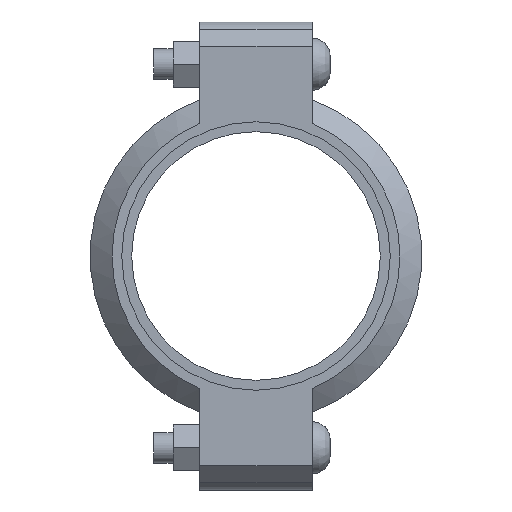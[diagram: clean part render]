
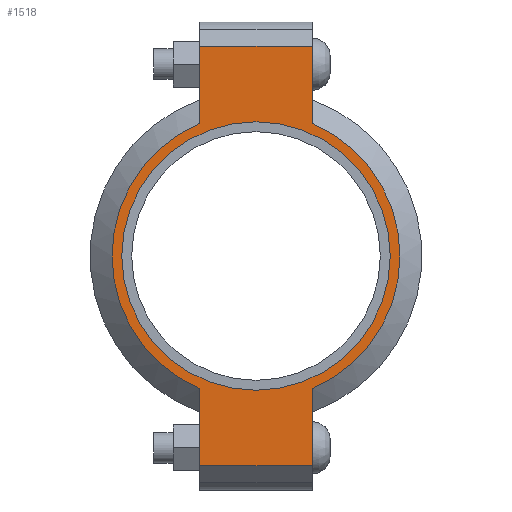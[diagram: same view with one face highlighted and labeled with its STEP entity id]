
A CAD part, left-side view. The second image highlights one B-rep face of the part: STEP entity #1518.
In plain terms, the highlighted planar face has unit normal (-1, 0, 0) as drawn and (0, 0, 1) by its records, which use the part's own axes.
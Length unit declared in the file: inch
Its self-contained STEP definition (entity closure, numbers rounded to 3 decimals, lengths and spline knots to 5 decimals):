
#142=LINE('',#2649,#235);
#150=LINE('',#2685,#243);
#157=LINE('',#2706,#250);
#166=LINE('',#2738,#259);
#167=LINE('',#2742,#260);
#168=LINE('',#2744,#261);
#235=VECTOR('',#2165,0.3937);
#243=VECTOR('',#2181,0.3937);
#250=VECTOR('',#2200,0.3937);
#259=VECTOR('',#2225,0.3937);
#260=VECTOR('',#2230,0.3937);
#261=VECTOR('',#2231,0.3937);
#317=FACE_BOUND('',#495,.T.);
#389=FACE_OUTER_BOUND('',#494,.T.);
#494=EDGE_LOOP('',(#1259,#1260,#1261,#1262,#1263,#1264,#1265,#1266));
#495=EDGE_LOOP('',(#1267));
#567=CIRCLE('',#1737,2.75);
#593=CIRCLE('',#1796,2.95);
#594=CIRCLE('',#1797,2.95);
#659=VERTEX_POINT('',#2465);
#702=VERTEX_POINT('',#2646);
#703=VERTEX_POINT('',#2648);
#714=VERTEX_POINT('',#2680);
#715=VERTEX_POINT('',#2684);
#722=VERTEX_POINT('',#2703);
#723=VERTEX_POINT('',#2705);
#733=VERTEX_POINT('',#2741);
#734=VERTEX_POINT('',#2743);
#815=EDGE_CURVE('',#659,#659,#567,.T.);
#876=EDGE_CURVE('',#703,#702,#142,.T.);
#890=EDGE_CURVE('',#715,#714,#150,.T.);
#900=EDGE_CURVE('',#723,#722,#157,.T.);
#915=EDGE_CURVE('',#715,#702,#166,.T.);
#916=EDGE_CURVE('',#714,#723,#593,.T.);
#917=EDGE_CURVE('',#733,#722,#167,.T.);
#918=EDGE_CURVE('',#733,#734,#168,.T.);
#919=EDGE_CURVE('',#734,#703,#594,.T.);
#1259=ORIENTED_EDGE('',*,*,#915,.F.);
#1260=ORIENTED_EDGE('',*,*,#890,.T.);
#1261=ORIENTED_EDGE('',*,*,#916,.T.);
#1262=ORIENTED_EDGE('',*,*,#900,.T.);
#1263=ORIENTED_EDGE('',*,*,#917,.F.);
#1264=ORIENTED_EDGE('',*,*,#918,.T.);
#1265=ORIENTED_EDGE('',*,*,#919,.T.);
#1266=ORIENTED_EDGE('',*,*,#876,.T.);
#1267=ORIENTED_EDGE('',*,*,#815,.T.);
#1360=PLANE('',#1795);
#1518=ADVANCED_FACE('',(#389,#317),#1360,.T.);
#1737=AXIS2_PLACEMENT_3D('',#2467,#2041,#2042);
#1795=AXIS2_PLACEMENT_3D('',#2739,#2226,#2227);
#1796=AXIS2_PLACEMENT_3D('',#2740,#2228,#2229);
#1797=AXIS2_PLACEMENT_3D('',#2745,#2232,#2233);
#2041=DIRECTION('center_axis',(0.,0.,-1.));
#2042=DIRECTION('ref_axis',(-1.,0.,0.));
#2165=DIRECTION('',(-1.,0.,0.));
#2181=DIRECTION('',(1.,0.,0.));
#2200=DIRECTION('',(1.,0.,0.));
#2225=DIRECTION('',(0.,1.,0.));
#2226=DIRECTION('center_axis',(0.,0.,1.));
#2227=DIRECTION('ref_axis',(1.,0.,0.));
#2228=DIRECTION('center_axis',(0.,0.,1.));
#2229=DIRECTION('ref_axis',(-1.,0.,0.));
#2230=DIRECTION('',(0.,-1.,0.));
#2231=DIRECTION('',(-1.,0.,0.));
#2232=DIRECTION('center_axis',(0.,0.,1.));
#2233=DIRECTION('ref_axis',(-1.,0.,0.));
#2465=CARTESIAN_POINT('',(2.75,0.,1.065));
#2467=CARTESIAN_POINT('Origin',(0.,0.,1.065));
#2646=CARTESIAN_POINT('',(-4.295,1.15,1.065));
#2648=CARTESIAN_POINT('',(-2.71662,1.15,1.065));
#2649=CARTESIAN_POINT('',(-4.795,1.15,1.065));
#2680=CARTESIAN_POINT('',(-2.71662,-1.15,1.065));
#2684=CARTESIAN_POINT('',(-4.295,-1.15,1.065));
#2685=CARTESIAN_POINT('',(4.795,-1.15,1.065));
#2703=CARTESIAN_POINT('',(4.295,-1.15,1.065));
#2705=CARTESIAN_POINT('',(2.71662,-1.15,1.065));
#2706=CARTESIAN_POINT('',(4.795,-1.15,1.065));
#2738=CARTESIAN_POINT('',(-4.295,0.575,1.065));
#2739=CARTESIAN_POINT('Origin',(0.,0.,1.065));
#2740=CARTESIAN_POINT('Origin',(0.,0.,1.065));
#2741=CARTESIAN_POINT('',(4.295,1.15,1.065));
#2742=CARTESIAN_POINT('',(4.295,-0.575,1.065));
#2743=CARTESIAN_POINT('',(2.71662,1.15,1.065));
#2744=CARTESIAN_POINT('',(-4.795,1.15,1.065));
#2745=CARTESIAN_POINT('Origin',(0.,0.,1.065));
